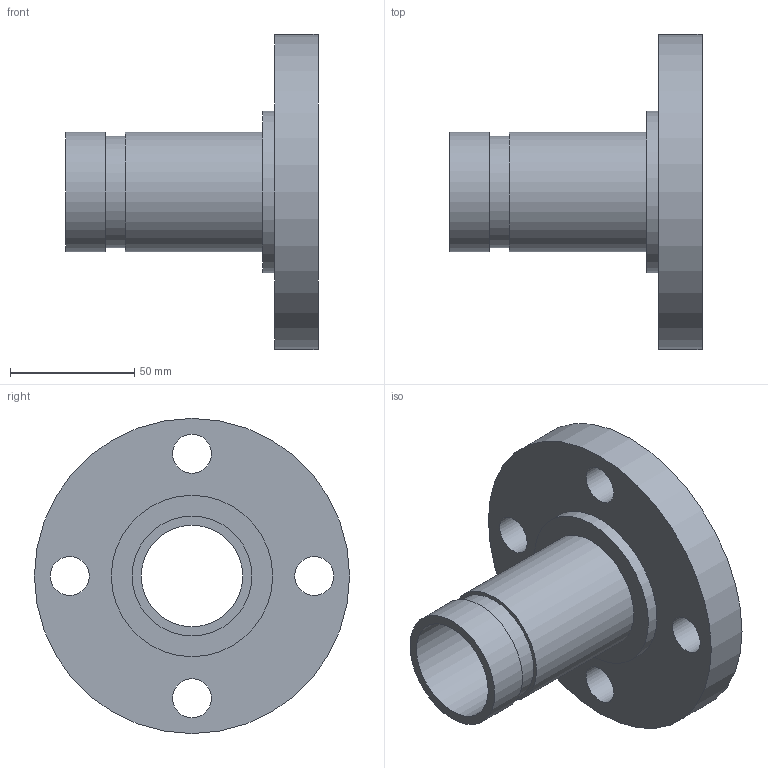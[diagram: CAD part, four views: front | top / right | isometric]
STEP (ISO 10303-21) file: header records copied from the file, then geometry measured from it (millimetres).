
FILE_DESCRIPTION(/* description */ ('VIC FLANGE ADAPTER No 45F','CAx-IF Rec.Pracs.---Representation and Presentation of Product Manufacturing Information (PMI)---4.0---2014-10-13'),/* implementation_level */ '2;1');
FILE_NAME(/* name */ 'C:\Users\kkamble\AppData\Roaming\Autodesk\ApplicationPlugins\Back Up\Victaulic_IPS_Flanged Adapter Nipple_CL 150 FF_No 45F (OGSxFLG)\Victaulic_IPS_Flanged Adapter Nipple_CL 150 FF_No 45F (OGSxFLG)_1.5 (40).stp',/* time_stamp */ '2020-07-26T22:22:46+06:00',/* author */ ('CONSTRUCTION PIPING SERVICES'),/* organization */ ('Victaulic'),/* preprocessor_version */ 'ST-DEVELOPER v17.2',/* originating_system */ 'Autodesk Inventor 2019',/* authorisation */ '');
FILE_SCHEMA (('AP242_MANAGED_MODEL_BASED_3D_ENGINEERING_MIM_LF { 1 0 10303 442 1 1 4 }'));
Length unit declared in the file: inch
Products named in the file (1): 045F-01.5
Bounding box: 101.6 x 127 x 127 mm (x, y, z)
Volume: 234051 mm3; surface area: 58051.1 mm2
Topology: 1 solids, 1 shells, 16 faces, 42 edges, 32 vertices
Faces by surface type: cylinder 10, plane 6
Full cylindrical faces by diameter (mm): 15.748 x4, 40.894 x1, 45.085 x1, 48.26 x2, 65.024 x1, 127 x1
Entity records: 622 total; most frequent: DIRECTION 108, CARTESIAN_POINT 91, ORIENTED_EDGE 84, AXIS2_PLACEMENT_3D 49, EDGE_CURVE 42, CIRCLE 32, VERTEX_POINT 32, EDGE_LOOP 30
